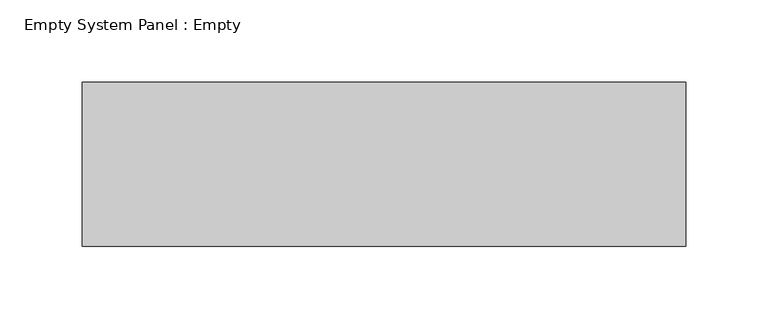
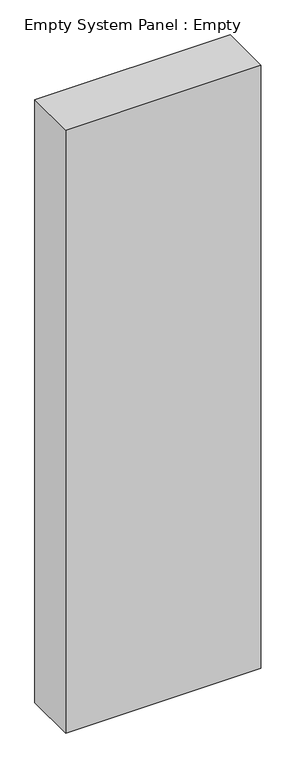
"""IFC4 building model written with IfcOpenShell, lengths in millimetres: plate geometry, Empty System Panel : Empty."""

from ifc_helpers import new_model, si_unit, origin, origin_with_axes, place, context, project, spatial, polyline, outline, extrude, source, transform, mapped, element, save


def empty_system_panel_empty_90a12fe6(model_context):
    return source(origin(), model_context, "Body", "SweptSolid", [
        extrude(outline(polyline([(183.75, -50.0), (-183.75, -50.0), (-183.75, 50.0), (183.75, 50.0), (183.75, -50.0)])), origin_with_axes(), (0.0, 0.0, 1.0), 1200.0),
    ])


if __name__ == "__main__":
    model = new_model("IFC4")
    model_context = context("Model", 3, world=origin())
    ifc_project = project(units=[si_unit("LENGTHUNIT", "METRE", prefix="MILLI")], contexts=[model_context])
    site = spatial("IfcSite", under=ifc_project)
    building = spatial("IfcBuilding", under=site)
    placement = place(None, origin())
    empty_system_panel_empty_shape = empty_system_panel_empty_90a12fe6(model_context)
    element("IfcPlate", 1, ObjectType="Empty System Panel : Empty", at=placement, inside=building, context=model_context, shape_type="MappedRepresentation", body=[
        mapped(empty_system_panel_empty_shape, transform((0.0, 0.0, 0.0), x_axis=(1.0, 0.0, 0.0), y_axis=(0.0, 1.0, 0.0), z_axis=(0.0, 0.0, 1.0))),
    ])
    save(model, "model.ifc")
